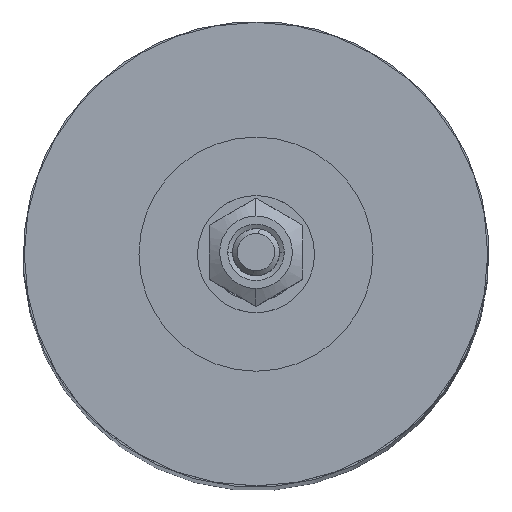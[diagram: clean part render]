
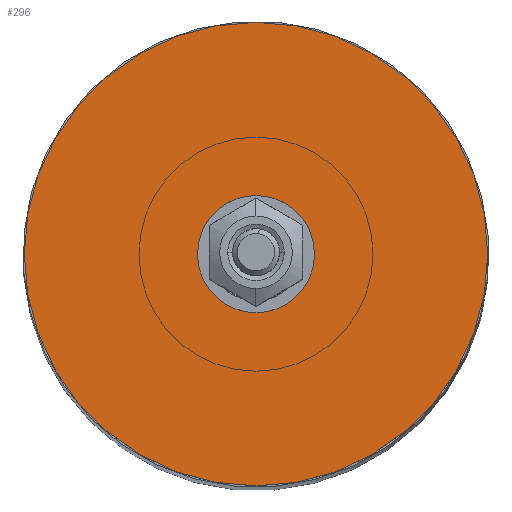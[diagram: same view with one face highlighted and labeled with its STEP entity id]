
A CAD part, top view. The second image highlights one B-rep face of the part: STEP entity #296.
In plain terms, the highlighted planar face has unit normal (0, 0, 1).
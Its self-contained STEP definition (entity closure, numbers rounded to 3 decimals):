
#296=ADVANCED_FACE('',(#479,#480),#481,.T.);
#479=FACE_OUTER_BOUND('',#694,.T.);
#480=FACE_BOUND('',#695,.T.);
#481=PLANE('',#696);
#694=EDGE_LOOP('',(#1263,#1264));
#695=EDGE_LOOP('',(#1265,#1266));
#696=AXIS2_PLACEMENT_3D('',#1267,#1268,#1269);
#1263=ORIENTED_EDGE('',*,*,#1581,.T.);
#1264=ORIENTED_EDGE('',*,*,#1613,.T.);
#1265=ORIENTED_EDGE('',*,*,#1612,.T.);
#1266=ORIENTED_EDGE('',*,*,#1583,.T.);
#1267=CARTESIAN_POINT('',(-0.854,-4.301,60.441));
#1268=DIRECTION('',(0.0,0.0,1.0));
#1269=DIRECTION('',(1.0,0.0,0.0));
#1581=EDGE_CURVE('',#1857,#1861,#1863,.T.);
#1583=EDGE_CURVE('',#1867,#1864,#1868,.T.);
#1612=EDGE_CURVE('',#1864,#1867,#1914,.T.);
#1613=EDGE_CURVE('',#1861,#1857,#1915,.T.);
#1857=VERTEX_POINT('',#2458);
#1861=VERTEX_POINT('',#2463);
#1863=CIRCLE('',#2466,9.9);
#1864=VERTEX_POINT('',#2467);
#1867=VERTEX_POINT('',#2471);
#1868=CIRCLE('',#2472,2.5);
#1914=CIRCLE('',#2527,2.5);
#1915=CIRCLE('',#2528,9.9);
#2458=CARTESIAN_POINT('',(-0.854,-9.251,60.441));
#2463=CARTESIAN_POINT('',(-0.854,10.549,60.441));
#2466=AXIS2_PLACEMENT_3D('',#2827,#2828,#2829);
#2467=CARTESIAN_POINT('',(-0.854,-1.851,60.441));
#2471=CARTESIAN_POINT('',(-0.854,3.149,60.441));
#2472=AXIS2_PLACEMENT_3D('',#2831,#2832,#2833);
#2527=AXIS2_PLACEMENT_3D('',#2900,#2901,#2902);
#2528=AXIS2_PLACEMENT_3D('',#2903,#2904,#2905);
#2827=CARTESIAN_POINT('',(-0.854,0.649,60.441));
#2828=DIRECTION('',(0.0,0.0,1.0));
#2829=DIRECTION('',(0.0,-1.0,0.0));
#2831=CARTESIAN_POINT('',(-0.854,0.649,60.441));
#2832=DIRECTION('',(0.0,0.0,-1.0));
#2833=DIRECTION('',(0.0,-1.0,0.0));
#2900=CARTESIAN_POINT('',(-0.854,0.649,60.441));
#2901=DIRECTION('',(0.0,0.0,-1.0));
#2902=DIRECTION('',(0.0,-1.0,0.0));
#2903=CARTESIAN_POINT('',(-0.854,0.649,60.441));
#2904=DIRECTION('',(0.0,0.0,1.0));
#2905=DIRECTION('',(0.0,-1.0,0.0));
